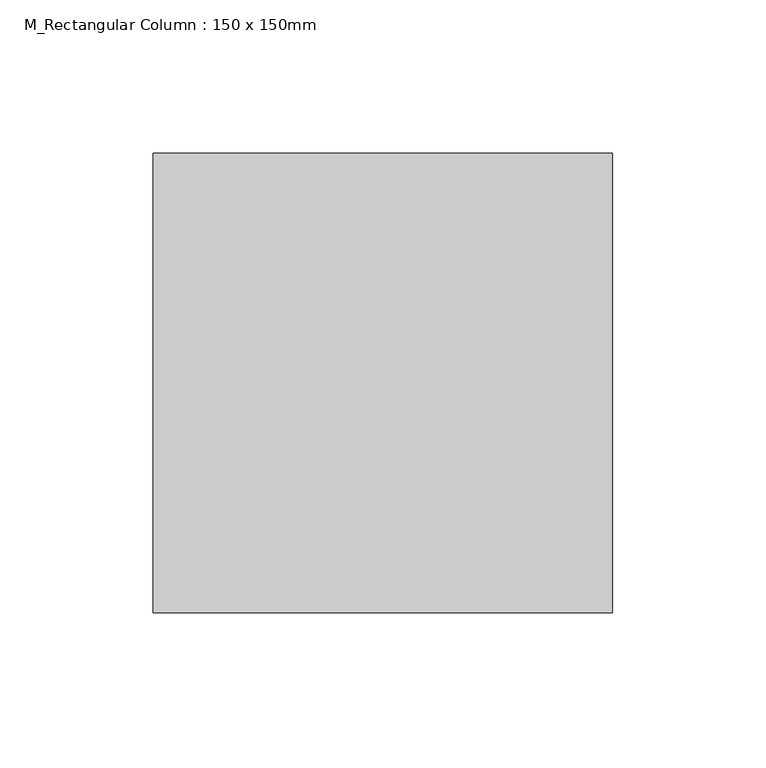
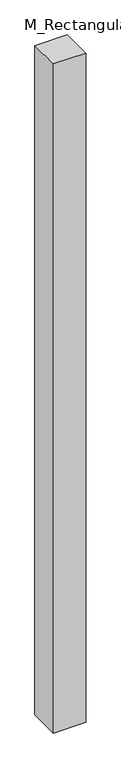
"""IFC4 building model written with IfcOpenShell, lengths in millimetres: column geometry, M_Rectangular Column : 150 x 150mm."""

from ifc_helpers import new_model, si_unit, origin, origin_with_axes, place, context, project, spatial, polyline, outline, extrude, source, transform, mapped, element, save


def m_rectangular_column_150_x_150mm_8d2a82a3(model_context):
    return source(origin(), model_context, "Body", "SweptSolid", [
        extrude(outline(polyline([(75.0, 75.0), (75.0, -75.0), (-75.0, -75.0), (-75.0, 75.0), (75.0, 75.0)])), origin_with_axes(), (0.0, 0.0, 1.0), 3300.0),
    ])


if __name__ == "__main__":
    model = new_model("IFC4")
    model_context = context("Model", 3, world=origin())
    ifc_project = project(units=[si_unit("LENGTHUNIT", "METRE", prefix="MILLI")], contexts=[model_context])
    site = spatial("IfcSite", under=ifc_project)
    building = spatial("IfcBuilding", under=site)
    placement = place(None, origin())
    m_rectangular_column_150_x_150mm_shape = m_rectangular_column_150_x_150mm_8d2a82a3(model_context)
    element("IfcColumn", 1, ObjectType="M_Rectangular Column : 150 x 150mm", at=placement, inside=building, context=model_context, shape_type="MappedRepresentation", body=[
        mapped(m_rectangular_column_150_x_150mm_shape, transform((0.0, 0.0, 0.0), x_axis=(1.0, 0.0, 0.0), y_axis=(0.0, 1.0, 0.0), z_axis=(0.0, 0.0, 1.0))),
    ])
    save(model, "model.ifc")
